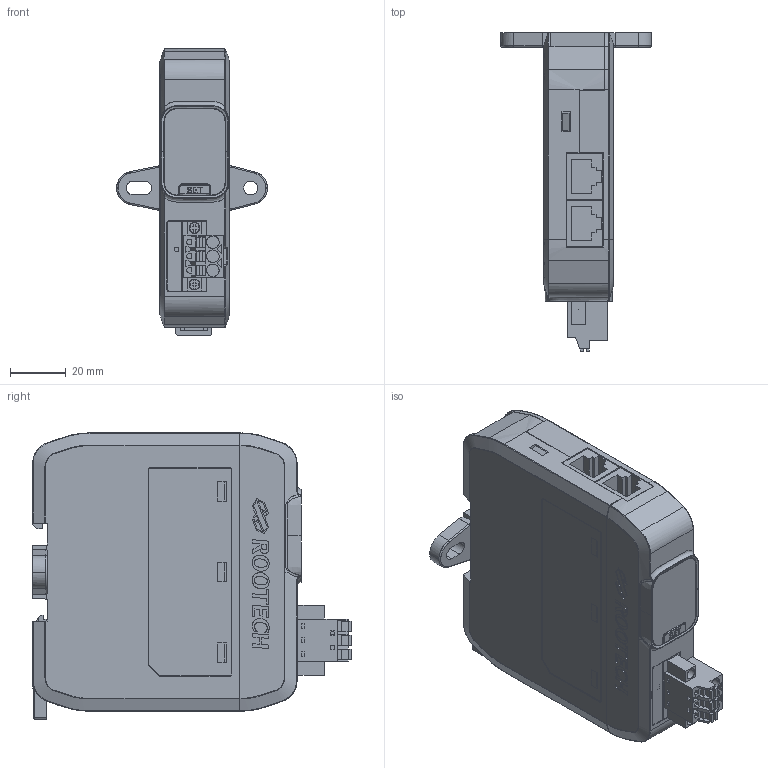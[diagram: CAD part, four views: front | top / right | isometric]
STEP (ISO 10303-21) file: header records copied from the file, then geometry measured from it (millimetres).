
FILE_DESCRIPTION(/* description */ (''),/* implementation_level */ '2;1');
FILE_NAME(/* name */ 'AXJPQA~0',/* time_stamp */ '2022-12-06T14:25:53+09:00',/* author */ (''),/* organization */ (''),/* preprocessor_version */ 'ST-DEVELOPER v15',/* originating_system */ '',/* authorisation */ '');
FILE_SCHEMA (('AUTOMOTIVE_DESIGN'));
Products named in the file (60): Document; A2550 GW Ass''y_20200623; Spring(0.6 X 19); 블록 12; Case-M Ass''y; PCB-Main Ass''y; 559091674; 블록 17; IT-1107VB(L=8.35); 블록 19; PCB-Main; 블록 20; MJ-657PP-8-SD-G(RJ45); 블록 21; 3D_SL 5.08HC_03_90F 3.2SN OR BX (1148640000); 블록 22; 블록 23; 블록 24; 블록 25; 블록 26; 블록 27; LED1; 블록 02; pan cross head_ks_KS 1023 PC- M3 x 6-N; 블록 09; Case-M; 블록 14; Case-F Ass''y; Case-F; 블록 01; mounting-s; 블록 16; Sticker; 블록 18; Hook; 블록 29; mounting-l; 블록 32; Case-Top Ass''y; Membrane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
Assembly tree (63 placements, depth 6):
  Document
    A2550 GW Ass''y_20200623
      Spring(0.6 X 19)
        블록 12
      Case-M Ass''y
        PCB-Main Ass''y
          559091674
            블록 17
          IT-1107VB(L=8.35)
            블록 19
          PCB-Main
            블록 20
          MJ-657PP-8-SD-G(RJ45)  x2
            블록 21
          3D_SL 5.08HC_03_90F 3.2SN OR BX (1148640000)
            블록 22
            블록 23
            블록 24
            블록 25
            블록 26
            블록 27
          LED1
            블록 02
        pan cross head_ks_KS 1023 PC- M3 x 6-N  x3
          블록 09
        Case-M
          블록 14
      Case-F Ass''y
        Case-F
          블록 01
      mounting-s
        블록 16
      Sticker  x2
        블록 18
      Hook
        블록 29
      mounting-l
        블록 32
      Case-Top Ass''y
        Membrane
          블록 11
        LCD-Bracket-3P
          블록 13
        Case-Top
          블록 15
        window
          블록 28
        513381674
          블록 30
        LCD(DTC)_200211
          블록 31
        Button-3P
          블록 10
      1013090000
        블록 03
        블록 04
        블록 05
        블록 06
        블록 07
        블록 08
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Bounding box: 54.2 x 114.48 x 102.84 mm (x, y, z)
Surface area: 111438.4 mm2 (no closed solid volume)
Topology: 0 solids, 4830 shells, 4834 faces, 26727 edges, 26712 vertices
Faces by surface type: plane 3557, bspline 1277
Entity records: 281272 total; most frequent: CARTESIAN_POINT 140662, ORIENTED_EDGE 25831, EDGE_CURVE 25827, VERTEX_POINT 25823, B_SPLINE_CURVE_WITH_KNOTS 22395, EDGE_LOOP 4992, ADVANCED_FACE 4641, FACE_OUTER_BOUND 4641
